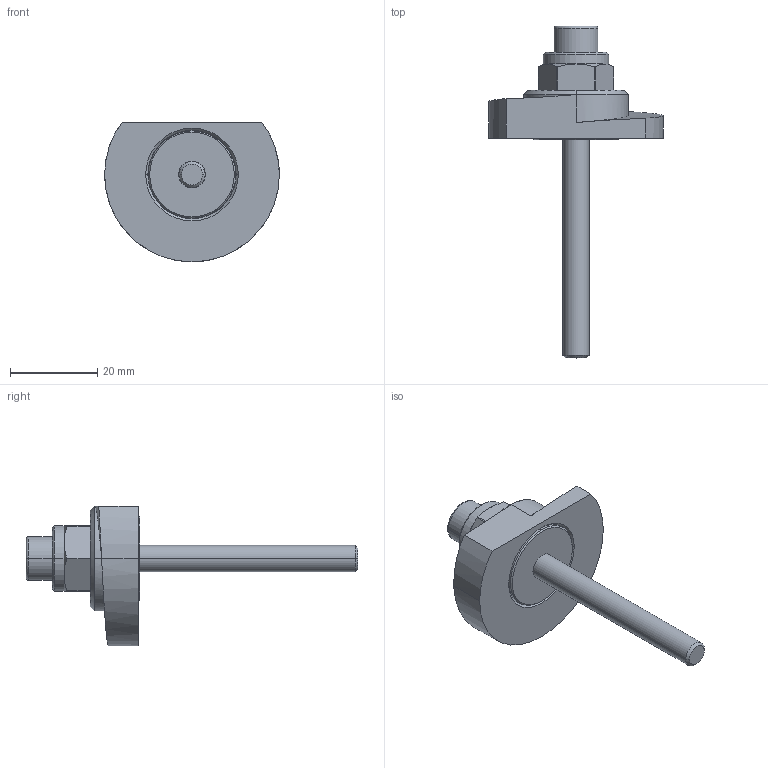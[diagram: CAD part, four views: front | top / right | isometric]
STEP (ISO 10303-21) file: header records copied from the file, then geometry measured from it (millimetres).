
FILE_DESCRIPTION (( 'STEP AP214' ), '1' );
FILE_NAME ('918.1-40-SKS-R-50.step', '2024-05-15T13:01:17', ( '' ), ( '' ), 'SwSTEP 2.0', 'SolidWorks 2022', '' );
FILE_SCHEMA (( 'AUTOMOTIVE_DESIGN' ));
Length unit declared in the file: millimetre
Products named in the file (1): 918.1-40-SKS-R-50
Bounding box: 40 x 76 x 32 mm (x, y, z)
Volume: 12363.7 mm3; surface area: 7150.9 mm2
Topology: 1 solids, 2 shells, 82 faces, 185 edges, 116 vertices
Faces by surface type: cylinder 30, plane 26, cone 22, torus 2, bspline 2
Entity records: 2641 total; most frequent: CARTESIAN_POINT 753, DIRECTION 407, ORIENTED_EDGE 370, EDGE_CURVE 185, AXIS2_PLACEMENT_3D 163, VERTEX_POINT 116, EDGE_LOOP 93, ADVANCED_FACE 82
